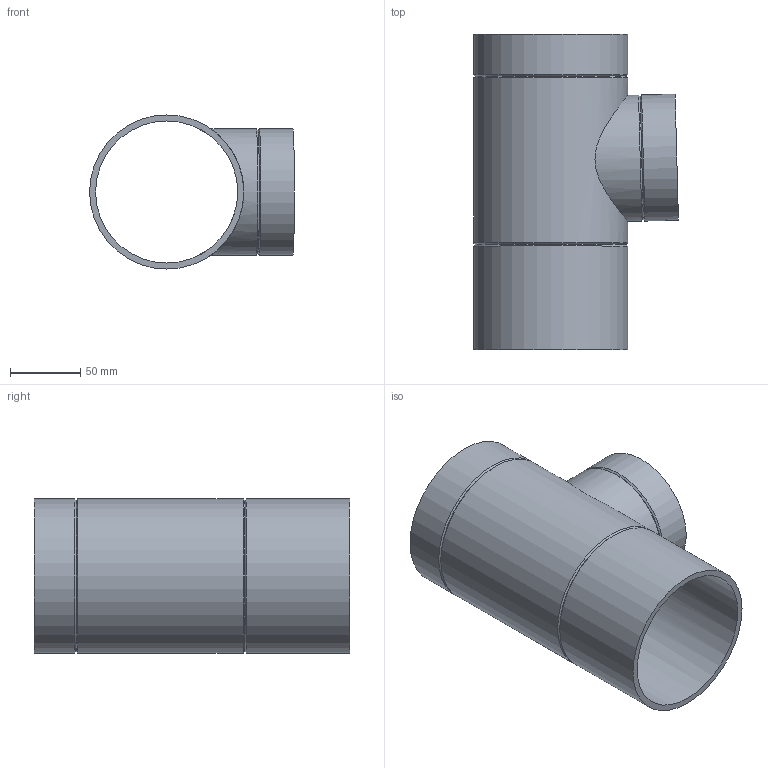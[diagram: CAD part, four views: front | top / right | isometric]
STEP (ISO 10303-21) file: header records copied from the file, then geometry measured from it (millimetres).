
FILE_DESCRIPTION(/* description */ (''),/* implementation_level */ '2;1');
FILE_NAME(/* name */ 'Z:\Geberit\Export\NewStep\367180.stp',/* time_stamp */ '2014-04-02T07:56:06+02:00',/* author */ ('nelson'),/* organization */ (''),/* preprocessor_version */ 'ST-DEVELOPER v15.2',/* originating_system */ 'Autodesk Inventor 2014',/* authorisation */ '');
FILE_SCHEMA (('AUTOMOTIVE_DESIGN { 1 0 10303 214 3 1 1 }'));
Length unit declared in the file: millimetre
Products named in the file (1): 367180
Bounding box: 146.15 x 225 x 110 mm (x, y, z)
Volume: 337011.2 mm3; surface area: 166773.1 mm2
Topology: 1 solids, 1 shells, 16 faces, 37 edges, 23 vertices
Faces by surface type: cylinder 7, cone 6, plane 3
Full cylindrical faces by diameter (mm): 83 x1, 90 x2, 101.4 x1, 110 x3
Entity records: 503 total; most frequent: CARTESIAN_POINT 181, DIRECTION 64, EDGE_LOOP 34, ORIENTED_EDGE 34, AXIS2_PLACEMENT_3D 32, FACE_BOUND 22, VERTEX_POINT 17, EDGE_CURVE 17
